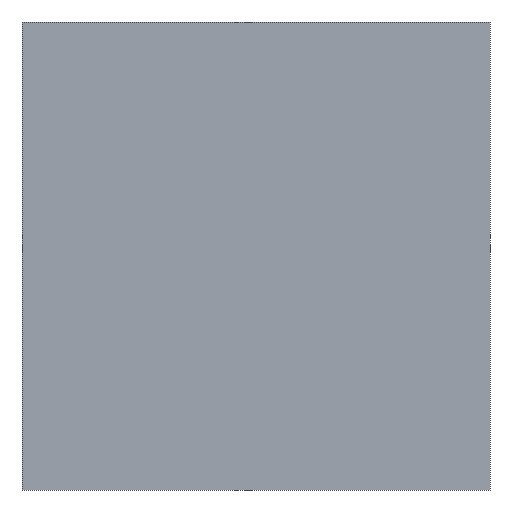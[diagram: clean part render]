
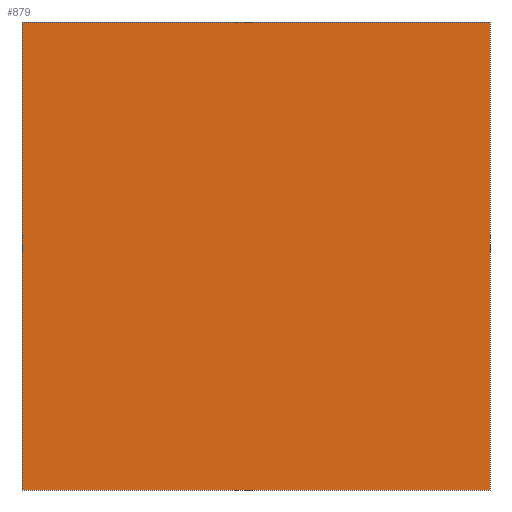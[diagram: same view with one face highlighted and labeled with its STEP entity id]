
A CAD part, front view. The second image highlights one B-rep face of the part: STEP entity #879.
In plain terms, the highlighted planar face has unit normal (0, -1, 0).
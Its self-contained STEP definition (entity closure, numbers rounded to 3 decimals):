
#46 = VECTOR ( 'NONE', #450, 1000. ) ;
#49 = VERTEX_POINT ( 'NONE', #325 ) ;
#65 = LINE ( 'NONE', #858, #786 ) ;
#78 = ORIENTED_EDGE ( 'NONE', *, *, #692, .T. ) ;
#86 = CARTESIAN_POINT ( 'NONE',  ( 50., -3., -50. ) ) ;
#94 = EDGE_CURVE ( 'NONE', #727, #265, #554, .T. ) ;
#120 = CARTESIAN_POINT ( 'NONE',  ( -50., -3., -50. ) ) ;
#146 = PLANE ( 'NONE',  #556 ) ;
#223 = EDGE_CURVE ( 'NONE', #49, #727, #615, .T. ) ;
#265 = VERTEX_POINT ( 'NONE', #399 ) ;
#325 = CARTESIAN_POINT ( 'NONE',  ( 50., -3., 50. ) ) ;
#399 = CARTESIAN_POINT ( 'NONE',  ( -50., -3., -50. ) ) ;
#400 = CARTESIAN_POINT ( 'NONE',  ( 0., -3., 0. ) ) ;
#430 = EDGE_CURVE ( 'NONE', #538, #49, #65, .T. ) ;
#450 = DIRECTION ( 'NONE',  ( -1., 0., 0. ) ) ;
#470 = DIRECTION ( 'NONE',  ( 0., 0., -1. ) ) ;
#476 = DIRECTION ( 'NONE',  ( 0., -1., 0. ) ) ;
#510 = FACE_OUTER_BOUND ( 'NONE', #547, .T. ) ;
#516 = DIRECTION ( 'NONE',  ( 1., 0., 0. ) ) ;
#538 = VERTEX_POINT ( 'NONE', #86 ) ;
#547 = EDGE_LOOP ( 'NONE', ( #751, #78, #732, #896 ) ) ;
#554 = LINE ( 'NONE', #841, #881 ) ;
#556 = AXIS2_PLACEMENT_3D ( 'NONE', #400, #476, #516 ) ;
#574 = DIRECTION ( 'NONE',  ( 0., 0., 1. ) ) ;
#615 = LINE ( 'NONE', #665, #46 ) ;
#631 = DIRECTION ( 'NONE',  ( 1., 0., 0. ) ) ;
#665 = CARTESIAN_POINT ( 'NONE',  ( -50., -3., 50. ) ) ;
#692 = EDGE_CURVE ( 'NONE', #265, #538, #842, .T. ) ;
#727 = VERTEX_POINT ( 'NONE', #787 ) ;
#732 = ORIENTED_EDGE ( 'NONE', *, *, #430, .T. ) ;
#751 = ORIENTED_EDGE ( 'NONE', *, *, #94, .T. ) ;
#760 = VECTOR ( 'NONE', #631, 1000. ) ;
#786 = VECTOR ( 'NONE', #574, 1000. ) ;
#787 = CARTESIAN_POINT ( 'NONE',  ( -50., -3., 50. ) ) ;
#841 = CARTESIAN_POINT ( 'NONE',  ( -50., -3., 50. ) ) ;
#842 = LINE ( 'NONE', #120, #760 ) ;
#858 = CARTESIAN_POINT ( 'NONE',  ( 50., -3., 50. ) ) ;
#879 = ADVANCED_FACE ( 'NONE', ( #510 ), #146, .T. ) ;
#881 = VECTOR ( 'NONE', #470, 1000. ) ;
#896 = ORIENTED_EDGE ( 'NONE', *, *, #223, .T. ) ;
